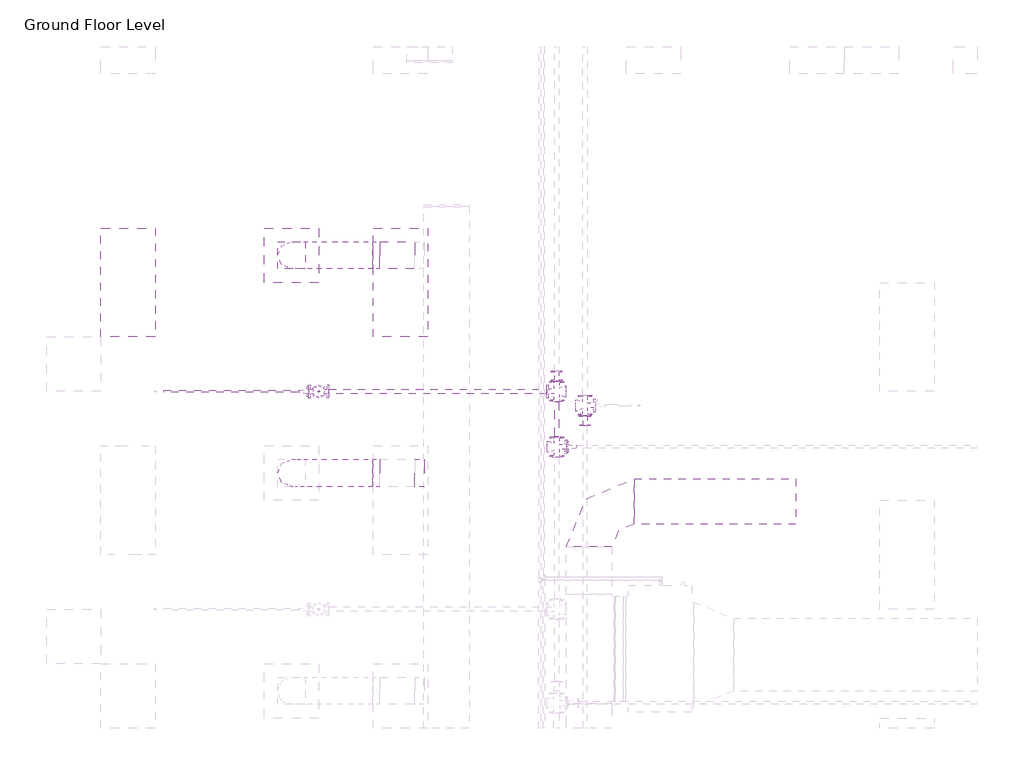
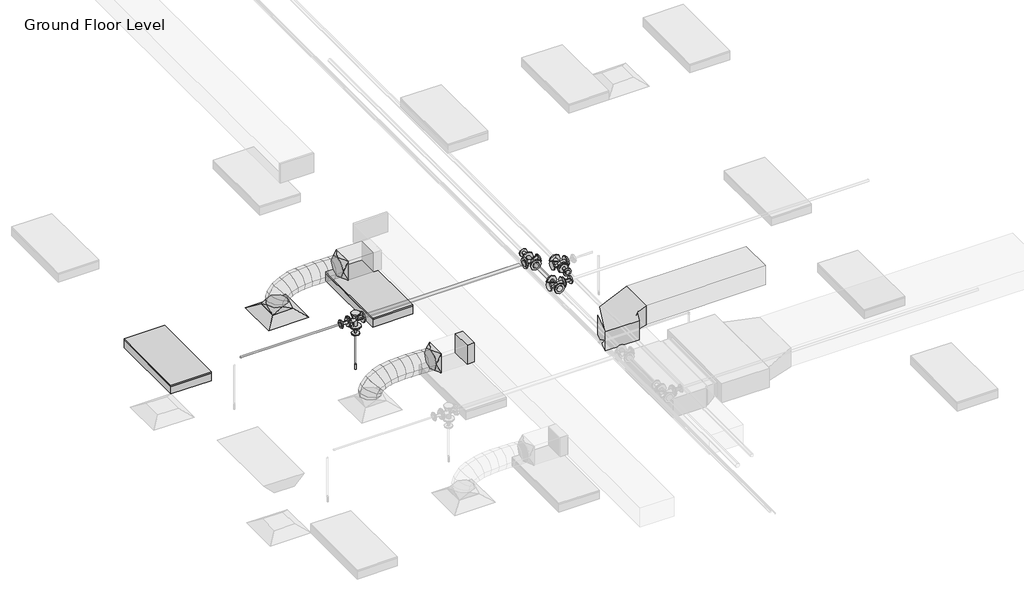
# One storey, part 26 of 74: 9 pipe fittings, 5 duct fittings, 4 duct segments, 4 pipe segments, 2 light fixtures, 1 air terminal, 1 fire suppression terminal.
"""IFC4 building model written with IfcOpenShell, lengths in millimetres."""

from ifc_helpers import new_model, si_unit, point, frame, frame_2d, origin, place, context, project, spatial, polyline, circle_curve, ellipse_curve, trimmed, segment, composite_curve, outline, extrude, transform, mapped, element, save
from ifc_brep_helpers import plane_surface, cylinder_surface, advanced_brep
from components import m_return_diffuser_600_x_600_face_300_x_300_connection_ff221211, m_rectangular_elbow_radius_1_w_abe20169, m_rectangular_takeoff_standard_cb0ccb98, m_rectangular_to_round_transition_angle_45_degree_641efff0, m_sprinkler_dry_pendent_hosted_15_mm_dry_pendent_9bda8e11, m_troffer_light_parabolic_rectangular1_0600x1200mm_4_lamp_86473d4a, m_reducer_flanged_cs_class_150_standard_564df86d, m_reducer_flanged_cs_class_150_standard_8338f9e4, m_reducer_flanged_cs_class_150_standard_dc68ad9d, m_tee_round_base_flanged_cs_class_150_standard_ab36f383

model = new_model("IFC4")

# Units and contexts
model_context = context("Model", 3, world=origin())
ifc_project = project(units=[si_unit("LENGTHUNIT", "METRE", prefix="MILLI")], contexts=[model_context])

# Site, building, storey
site = spatial("IfcSite", under=ifc_project)
building = spatial("IfcBuilding", under=site)
storey = spatial("IfcBuildingStorey", under=building, Name="Ground Floor Level", Elevation=900.0)

# Air terminal
placement = place(None, origin())
m_return_diffuser_600_x_600_face_300_x_300_connection_shape = m_return_diffuser_600_x_600_face_300_x_300_connection_ff221211(model_context)
element("IfcAirTerminal", 1, ObjectType="M_Supply Diffuser : 600 x 600 Face 300 x 300 Connection", at=placement, inside=storey, context=model_context, shape_type="MappedRepresentation", body=[
    mapped(m_return_diffuser_600_x_600_face_300_x_300_connection_shape, transform((2762.7672395, -17164.7846466, 3650.0), x_axis=(1.0, 0.0, 0.0), y_axis=(0.0, 1.0, 0.0), z_axis=(0.0, 0.0, 1.0))),
])

# Duct fittings
m_rectangular_elbow_radius_1_w_shape = m_rectangular_elbow_radius_1_w_abe20169(model_context)
element("IfcDuctFitting", 2, ObjectType="M_Rectangular Elbow - Radius : 1 W", at=placement, inside=storey, context=model_context, shape_type="MappedRepresentation", body=[
    mapped(m_rectangular_elbow_radius_1_w_shape, transform((6040.9897768, -19877.6206315, 4082.4543707), x_axis=(-1.0, 0.0, 0.0), y_axis=(0.0, -1.0, 0.0), z_axis=(0.0, 0.0, 1.0))),
])
m_rectangular_takeoff_standard_shape = m_rectangular_takeoff_standard_cb0ccb98(model_context)
element("IfcDuctFitting", 3, ObjectType="M_Rectangular Takeoff : Standard", at=placement, inside=storey, context=model_context, shape_type="MappedRepresentation", body=[
    mapped(m_rectangular_takeoff_standard_shape, transform((4219.1581832, -19564.7846466, 4057.1479019), x_axis=(-1.0, 0.0, 0.0), y_axis=(0.0, 1.0, 0.0), z_axis=(0.0, 0.0, -1.0))),
])
m_rectangular_to_round_transition_angle_45_degree_shape = m_rectangular_to_round_transition_angle_45_degree_641efff0(model_context)
element("IfcDuctFitting", 4, ObjectType="M_Rectangular to Round Transition - Angle : 45 Degree", at=placement, inside=storey, context=model_context, shape_type="MappedRepresentation", body=[
    mapped(m_rectangular_to_round_transition_angle_45_degree_shape, transform((2762.7672395, -17164.7846466, 3751.6), x_axis=(0.0, 0.0, 1.0), y_axis=(-1.0, 0.0, 0.0), z_axis=(0.0, -1.0, 0.0))),
])
element("IfcDuctFitting", 5, ObjectType="M_Rectangular to Round Transition - Angle : 45 Degree", at=placement, inside=storey, context=model_context, shape_type="MappedRepresentation", body=[
    mapped(m_rectangular_to_round_transition_angle_45_degree_shape, transform((3732.9593248, -17164.7846466, 4057.143846), x_axis=(-1.0, 0.0, 0.0), y_axis=(0.0, -1.0, 0.0), z_axis=(0.0, 0.0, 1.0))),
])
element("IfcDuctFitting", 6, ObjectType="M_Rectangular to Round Transition - Angle : 45 Degree", at=placement, inside=storey, context=model_context, shape_type="MappedRepresentation", body=[
    mapped(m_rectangular_to_round_transition_angle_45_degree_shape, transform((3732.9552689, -19564.7846466, 4057.1479019), x_axis=(-1.0, 0.0, 0.0), y_axis=(0.0, -1.0, 0.0), z_axis=(0.0, 0.0, 1.0))),
])

# Duct segments
element("IfcDuctSegment", 7, ObjectType="Flex - Round", at=placement, inside=storey, context=model_context, shape_type="AdvancedBrep", body=[
    advanced_brep(
    [(2912.7672395, -17164.7846466, 3826.6), (2762.7672395, -17314.7846466, 3826.6), (2612.7672395, -17164.7846466, 3826.6), (2762.7672395, -17014.7846466, 3826.6), (2912.7672395, -17164.7846466, 3832.8904054), (2762.7672395, -17314.7846466, 3856.84963), (2612.7672395, -17164.7846466, 3880.8088546), (2762.7672395, -17014.7846466, 3856.84963), (2914.0857611, -17164.7846466, 3836.9124951), (2779.5129985, -17314.7846466, 3907.9318018), (2644.940236, -17164.7846466, 3978.9511085), (2779.5129985, -17014.7846466, 3907.9318018), (2928.1333628, -17164.7846466, 3855.2232955), (2826.2863476, -17314.7846466, 3968.9000352), (2724.4393324, -17164.7846466, 4082.5767748), (2826.2863476, -17014.7846466, 3968.9000352), (2960.0749195, -17164.7846466, 3874.5762626), (2897.8913945, -17314.7846466, 4012.2845867), (2835.7078695, -17164.7846466, 4149.9929109), (2897.8913945, -17014.7846466, 4012.2845867), (3023.3474104, -17164.7846466, 3894.3960649), (2989.1322471, -17314.7846466, 4040.8653433), (2954.9170839, -17164.7846466, 4187.3346218), (2989.1322471, -17014.7846466, 4040.8653433), (3111.2188579, -17164.7846466, 3908.1627538), (3094.8130134, -17314.7846466, 4057.4221917), (3078.407169, -17164.7846466, 4206.6816296), (3094.8130134, -17014.7846466, 4057.4221917), (3215.0397402, -17164.7846466, 3914.7690234), (3209.7378012, -17314.7846466, 4064.7350186), (3204.4358622, -17164.7846466, 4214.7010137), (3209.7378012, -17014.7846466, 4064.7350186), (3327.4409955, -17164.7846466, 3915.5708367), (3328.7107184, -17314.7846466, 4065.5837107), (3329.9804412, -17164.7846466, 4215.5965847), (3328.7107184, -17014.7846466, 4065.5837107), (3442.2167216, -17164.7846466, 3912.8086677), (3446.5358728, -17314.7846466, 4062.7481548), (3450.855024, -17164.7846466, 4212.6876419), (3446.5358728, -17014.7846466, 4062.7481548), (3554.063392, -17164.7846466, 3909.0565), (3558.0173723, -17314.7846466, 4059.0082376), (3561.9713526, -17164.7846466, 4208.9599753), (3558.0173723, -17014.7846466, 4059.0082376), (3657.9593248, -17164.7846466, 3907.143846), (3657.9593248, -17014.7846466, 4057.143846), (3657.9593248, -17164.7846466, 4207.143846), (3657.9593248, -17314.7846466, 4057.143846), (3653.7223326, -17164.7846466, 3907.143846), (3655.1615998, -17314.7846466, 4057.143846), (3656.600867, -17164.7846466, 4207.143846), (3655.1615998, -17014.7846466, 4057.143846)],
    [
        (0, 1, circle_curve(frame((2762.7672395, -17164.7846466, 3826.6), z_axis=(0.0, 0.0, -1.0), x_axis=(1.0, 0.0, 0.0)), 150.0)),
        (1, 2, circle_curve(frame((2762.7672395, -17164.7846466, 3826.6), z_axis=(0.0, 0.0, -1.0), x_axis=(1.0, 0.0, 0.0)), 150.0)),
        (2, 3, circle_curve(frame((2762.7672395, -17164.7846466, 3826.6), z_axis=(0.0, 0.0, -1.0), x_axis=(1.0, 0.0, 0.0)), 150.0)),
        (3, 0, circle_curve(frame((2762.7672395, -17164.7846466, 3826.6), z_axis=(0.0, 0.0, -1.0), x_axis=(1.0, 0.0, 0.0)), 150.0)),
        (0, 4),
        (4, 5, ellipse_curve(frame((2762.7672395, -17164.7846466, 3856.84963), z_axis=(-0.1577287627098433, 0.0, -0.9874824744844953), x_axis=(0.9874824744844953, 0.0, -0.15772876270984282)), 151.90143, 150.0)),
        (5, 1),
        (5, 6, ellipse_curve(frame((2762.7672395, -17164.7846466, 3856.84963), z_axis=(-0.1577287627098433, 0.0, -0.9874824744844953), x_axis=(0.9874824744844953, 0.0, -0.15772876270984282)), 151.90143, 150.0)),
        (6, 2),
        (6, 7, ellipse_curve(frame((2762.7672395, -17164.7846466, 3856.84963), z_axis=(-0.1577287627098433, 0.0, -0.9874824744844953), x_axis=(0.9874824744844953, 0.0, -0.15772876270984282)), 151.90143, 150.0)),
        (7, 3),
        (7, 4, ellipse_curve(frame((2762.7672395, -17164.7846466, 3856.84963), z_axis=(-0.1577287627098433, 0.0, -0.9874824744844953), x_axis=(0.9874824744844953, 0.0, -0.15772876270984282)), 151.90143, 150.0)),
        (4, 8),
        (8, 9, ellipse_curve(frame((2779.5129985, -17164.7846466, 3907.9318018), z_axis=(-0.4667318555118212, 0.0, -0.8843988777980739), x_axis=(0.8843988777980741, 0.0, -0.4667318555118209)), 152.162973, 150.0)),
        (9, 5),
        (9, 10, ellipse_curve(frame((2779.5129985, -17164.7846466, 3907.9318018), z_axis=(-0.4667318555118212, 0.0, -0.8843988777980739), x_axis=(0.8843988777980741, 0.0, -0.4667318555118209)), 152.162973, 150.0)),
        (10, 6),
        (10, 11, ellipse_curve(frame((2779.5129985, -17164.7846466, 3907.9318018), z_axis=(-0.4667318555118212, 0.0, -0.8843988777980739), x_axis=(0.8843988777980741, 0.0, -0.4667318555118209)), 152.162973, 150.0)),
        (11, 7),
        (11, 8, ellipse_curve(frame((2779.5129985, -17164.7846466, 3907.9318018), z_axis=(-0.4667318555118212, 0.0, -0.8843988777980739), x_axis=(0.8843988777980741, 0.0, -0.4667318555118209)), 152.162973, 150.0)),
        (8, 12),
        (12, 13, ellipse_curve(frame((2826.2863476, -17164.7846466, 3968.9000352), z_axis=(-0.7447975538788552, 0.0, -0.6672904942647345), x_axis=(0.667290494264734, 0.0, -0.7447975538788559)), 152.6277027, 150.0)),
        (13, 9),
        (13, 14, ellipse_curve(frame((2826.2863476, -17164.7846466, 3968.9000352), z_axis=(-0.7447975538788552, 0.0, -0.6672904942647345), x_axis=(0.667290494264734, 0.0, -0.7447975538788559)), 152.6277027, 150.0)),
        (14, 10),
        (14, 15, ellipse_curve(frame((2826.2863476, -17164.7846466, 3968.9000352), z_axis=(-0.7447975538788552, 0.0, -0.6672904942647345), x_axis=(0.667290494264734, 0.0, -0.7447975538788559)), 152.6277027, 150.0)),
        (15, 11),
        (15, 12, ellipse_curve(frame((2826.2863476, -17164.7846466, 3968.9000352), z_axis=(-0.7447975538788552, 0.0, -0.6672904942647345), x_axis=(0.667290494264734, 0.0, -0.7447975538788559)), 152.6277027, 150.0)),
        (12, 16),
        (16, 17, ellipse_curve(frame((2897.8913945, -17164.7846466, 4012.2845867), z_axis=(-0.9113887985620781, 0.0, -0.41154642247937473), x_axis=(0.41154642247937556, 0.0, -0.9113887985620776)), 151.0972314, 150.0)),
        (17, 13),
        (17, 18, ellipse_curve(frame((2897.8913945, -17164.7846466, 4012.2845867), z_axis=(-0.9113887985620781, 0.0, -0.41154642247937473), x_axis=(0.41154642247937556, 0.0, -0.9113887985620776)), 151.0972314, 150.0)),
        (18, 14),
        (18, 19, ellipse_curve(frame((2897.8913945, -17164.7846466, 4012.2845867), z_axis=(-0.9113887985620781, 0.0, -0.41154642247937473), x_axis=(0.41154642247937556, 0.0, -0.9113887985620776)), 151.0972314, 150.0)),
        (19, 15),
        (19, 16, ellipse_curve(frame((2897.8913945, -17164.7846466, 4012.2845867), z_axis=(-0.9113887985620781, 0.0, -0.41154642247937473), x_axis=(0.41154642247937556, 0.0, -0.9113887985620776)), 151.0972314, 150.0)),
        (16, 20),
        (20, 21, ellipse_curve(frame((2989.1322471, -17164.7846466, 4040.8653433), z_axis=(-0.9737838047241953, 0.0, -0.2274754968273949), x_axis=(0.22747549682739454, 0.0, -0.9737838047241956)), 150.4125225, 150.0)),
        (21, 17),
        (21, 22, ellipse_curve(frame((2989.1322471, -17164.7846466, 4040.8653433), z_axis=(-0.9737838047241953, 0.0, -0.2274754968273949), x_axis=(0.22747549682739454, 0.0, -0.9737838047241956)), 150.4125225, 150.0)),
        (22, 18),
        (22, 23, ellipse_curve(frame((2989.1322471, -17164.7846466, 4040.8653433), z_axis=(-0.9737838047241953, 0.0, -0.2274754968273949), x_axis=(0.22747549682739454, 0.0, -0.9737838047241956)), 150.4125225, 150.0)),
        (23, 19),
        (23, 20, ellipse_curve(frame((2989.1322471, -17164.7846466, 4040.8653433), z_axis=(-0.9737838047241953, 0.0, -0.2274754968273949), x_axis=(0.22747549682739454, 0.0, -0.9737838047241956)), 150.4125225, 150.0)),
        (20, 24),
        (24, 25, ellipse_curve(frame((3094.8130134, -17164.7846466, 4057.4221917), z_axis=(-0.9940135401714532, 0.0, -0.10925695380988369), x_axis=(0.1092569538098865, 0.0, -0.9940135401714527)), 150.1583549, 150.0)),
        (25, 21),
        (25, 26, ellipse_curve(frame((3094.8130134, -17164.7846466, 4057.4221917), z_axis=(-0.9940135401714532, 0.0, -0.10925695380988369), x_axis=(0.1092569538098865, 0.0, -0.9940135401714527)), 150.1583549, 150.0)),
        (26, 22),
        (26, 27, ellipse_curve(frame((3094.8130134, -17164.7846466, 4057.4221917), z_axis=(-0.9940135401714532, 0.0, -0.10925695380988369), x_axis=(0.1092569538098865, 0.0, -0.9940135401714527)), 150.1583549, 150.0)),
        (27, 23),
        (27, 24, ellipse_curve(frame((3094.8130134, -17164.7846466, 4057.4221917), z_axis=(-0.9940135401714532, 0.0, -0.10925695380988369), x_axis=(0.1092569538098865, 0.0, -0.9940135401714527)), 150.1583549, 150.0)),
        (24, 28),
        (28, 29, ellipse_curve(frame((3209.7378012, -17164.7846466, 4064.7350186), z_axis=(-0.999375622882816, 0.0, -0.035332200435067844), x_axis=(0.035332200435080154, 0.0, -0.9993756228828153)), 150.059689, 150.0)),
        (29, 25),
        (29, 30, ellipse_curve(frame((3209.7378012, -17164.7846466, 4064.7350186), z_axis=(-0.999375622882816, 0.0, -0.035332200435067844), x_axis=(0.035332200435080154, 0.0, -0.9993756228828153)), 150.059689, 150.0)),
        (30, 26),
        (30, 31, ellipse_curve(frame((3209.7378012, -17164.7846466, 4064.7350186), z_axis=(-0.999375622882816, 0.0, -0.035332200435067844), x_axis=(0.035332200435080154, 0.0, -0.9993756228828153)), 150.059689, 150.0)),
        (31, 27),
        (31, 28, ellipse_curve(frame((3209.7378012, -17164.7846466, 4064.7350186), z_axis=(-0.999375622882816, 0.0, -0.035332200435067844), x_axis=(0.035332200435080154, 0.0, -0.9993756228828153)), 150.059689, 150.0)),
        (28, 32),
        (32, 33, ellipse_curve(frame((3328.7107184, -17164.7846466, 4065.5837107), z_axis=(-0.9999641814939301, 0.0, 0.008463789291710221), x_axis=(-0.00846378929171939, 0.0, -0.9999641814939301)), 150.0182474, 150.0)),
        (33, 29),
        (33, 34, ellipse_curve(frame((3328.7107184, -17164.7846466, 4065.5837107), z_axis=(-0.9999641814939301, 0.0, 0.008463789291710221), x_axis=(-0.00846378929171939, 0.0, -0.9999641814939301)), 150.0182474, 150.0)),
        (34, 30),
        (34, 35, ellipse_curve(frame((3328.7107184, -17164.7846466, 4065.5837107), z_axis=(-0.9999641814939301, 0.0, 0.008463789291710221), x_axis=(-0.00846378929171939, 0.0, -0.9999641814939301)), 150.0182474, 150.0)),
        (35, 31),
        (35, 32, ellipse_curve(frame((3328.7107184, -17164.7846466, 4065.5837107), z_axis=(-0.9999641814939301, 0.0, 0.008463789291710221), x_axis=(-0.00846378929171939, 0.0, -0.9999641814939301)), 150.0182474, 150.0)),
        (32, 36),
        (36, 37, ellipse_curve(frame((3446.5358728, -17164.7846466, 4062.7481548), z_axis=(-0.9995853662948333, 0.0, 0.02879401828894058), x_axis=(-0.028794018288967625, -3.989114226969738e-12, -0.9995853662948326)), 150.0016828, 150.0)),
        (37, 33),
        (37, 38, ellipse_curve(frame((3446.5358728, -17164.7846466, 4062.7481548), z_axis=(-0.9995853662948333, 0.0, 0.02879401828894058), x_axis=(-0.028794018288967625, -3.989114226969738e-12, -0.9995853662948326)), 150.0016828, 150.0)),
        (38, 34),
        (38, 39, ellipse_curve(frame((3446.5358728, -17164.7846466, 4062.7481548), z_axis=(-0.9995853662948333, 0.0, 0.02879401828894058), x_axis=(-0.028794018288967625, -3.989114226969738e-12, -0.9995853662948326)), 150.0016828, 150.0)),
        (39, 35),
        (39, 36, ellipse_curve(frame((3446.5358728, -17164.7846466, 4062.7481548), z_axis=(-0.9995853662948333, 0.0, 0.02879401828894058), x_axis=(-0.028794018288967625, -3.989114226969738e-12, -0.9995853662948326)), 150.0016828, 150.0)),
        (36, 40),
        (40, 41, ellipse_curve(frame((3558.0173723, -17164.7846466, 4059.0082376), z_axis=(-0.9996525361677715, 0.0, 0.026359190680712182), x_axis=(0.026359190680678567, 1.3534899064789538e-12, 0.9996525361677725)), 150.0038586, 150.0)),
        (41, 37),
        (41, 42, ellipse_curve(frame((3558.0173723, -17164.7846466, 4059.0082376), z_axis=(-0.9996525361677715, 0.0, 0.026359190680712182), x_axis=(0.026359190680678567, 1.3534899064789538e-12, 0.9996525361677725)), 150.0038586, 150.0)),
        (42, 38),
        (42, 43, ellipse_curve(frame((3558.0173723, -17164.7846466, 4059.0082376), z_axis=(-0.9996525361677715, 0.0, 0.026359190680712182), x_axis=(0.026359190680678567, 1.3534899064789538e-12, 0.9996525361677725)), 150.0038586, 150.0)),
        (43, 39),
        (43, 40, ellipse_curve(frame((3558.0173723, -17164.7846466, 4059.0082376), z_axis=(-0.9996525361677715, 0.0, 0.026359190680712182), x_axis=(0.026359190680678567, 1.3534899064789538e-12, 0.9996525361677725)), 150.0038586, 150.0)),
        (44, 45, circle_curve(frame((3657.9593248, -17164.7846466, 4057.143846), z_axis=(1.0, 0.0, 0.0), x_axis=(0.0, 0.0, -1.0)), 150.0)),
        (45, 46, circle_curve(frame((3657.9593248, -17164.7846466, 4057.143846), z_axis=(1.0, 0.0, 0.0), x_axis=(0.0, 0.0, -1.0)), 150.0)),
        (46, 47, circle_curve(frame((3657.9593248, -17164.7846466, 4057.143846), z_axis=(1.0, 0.0, 0.0), x_axis=(0.0, 0.0, -1.0)), 150.0)),
        (47, 44, circle_curve(frame((3657.9593248, -17164.7846466, 4057.143846), z_axis=(1.0, 0.0, 0.0), x_axis=(0.0, 0.0, -1.0)), 150.0)),
        (40, 48),
        (48, 49, ellipse_curve(frame((3655.1615998, -17164.7846466, 4057.143846), z_axis=(-0.999953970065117, 0.0, 0.009594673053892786), x_axis=(0.00959467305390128, 0.0, 0.999953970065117)), 150.0069048, 150.0)),
        (49, 41),
        (49, 50, ellipse_curve(frame((3655.1615998, -17164.7846466, 4057.143846), z_axis=(-0.999953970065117, 0.0, 0.009594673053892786), x_axis=(0.00959467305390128, 0.0, 0.999953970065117)), 150.0069048, 150.0)),
        (50, 42),
        (50, 51, ellipse_curve(frame((3655.1615998, -17164.7846466, 4057.143846), z_axis=(-0.999953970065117, 0.0, 0.009594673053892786), x_axis=(0.00959467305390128, 0.0, 0.999953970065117)), 150.0069048, 150.0)),
        (51, 43),
        (51, 48, ellipse_curve(frame((3655.1615998, -17164.7846466, 4057.143846), z_axis=(-0.999953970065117, 0.0, 0.009594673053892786), x_axis=(0.00959467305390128, 0.0, 0.999953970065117)), 150.0069048, 150.0)),
        (48, 44),
        (47, 49),
        (46, 50),
        (45, 51),
    ],
    [
        plane_surface(frame((2762.7672395, -17314.7846466, 3826.6), z_axis=(0.0, 0.0, -1.0), x_axis=(1.0, 0.0, 0.0))),
        cylinder_surface(frame((2762.7672395, -17164.7846466, 3826.6), z_axis=(0.0, 0.0, -1.0), x_axis=(1.0, 0.0, 0.0)), 150.0),
        cylinder_surface(frame((2762.7672395, -17164.7846466, 3856.84963), z_axis=(-0.3115087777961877, 0.0, -0.9502432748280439), x_axis=(0.9502432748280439, 0.0, -0.3115087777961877)), 150.0),
        cylinder_surface(frame((2779.5129985, -17164.7846466, 3907.9318018), z_axis=(-0.6086858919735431, 0.0, -0.7934112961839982), x_axis=(0.7934112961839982, 0.0, -0.6086858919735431)), 150.0),
        cylinder_surface(frame((2826.2863476, -17164.7846466, 3968.9000352), z_axis=(-0.8552637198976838, 0.0, -0.5181929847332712), x_axis=(0.5181929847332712, 0.0, -0.8552637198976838)), 150.0),
        cylinder_surface(frame((2897.8913945, -17164.7846466, 4012.2845867), z_axis=(-0.9542773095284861, 0.0, -0.2989227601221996), x_axis=(0.2989227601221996, 0.0, -0.9542773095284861)), 150.0),
        cylinder_surface(frame((2989.1322471, -17164.7846466, 4040.8653433), z_axis=(-0.9879488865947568, 0.0, -0.15478048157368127), x_axis=(0.15478048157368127, 0.0, -0.9879488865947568)), 150.0),
        cylinder_surface(frame((3094.8130134, -17164.7846466, 4057.4221917), z_axis=(-0.9979816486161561, 0.0, -0.06350298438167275), x_axis=(0.06350298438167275, 0.0, -0.9979816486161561)), 150.0),
        cylinder_surface(frame((3209.7378012, -17164.7846466, 4064.7350186), z_axis=(-0.9999745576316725, 0.0, -0.007133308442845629), x_axis=(0.007133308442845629, 0.0, -0.9999745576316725)), 150.0),
        cylinder_surface(frame((3328.7107184, -17164.7846466, 4065.5837107), z_axis=(-0.9997105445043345, 0.0, 0.024058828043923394), x_axis=(-0.024058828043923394, 0.0, -0.9997105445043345)), 150.0),
        cylinder_surface(frame((3446.5358728, -17164.7846466, 4062.7481548), z_axis=(-0.9994377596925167, 0.0, 0.03352856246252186), x_axis=(-0.03352856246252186, 0.0, -0.9994377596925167)), 150.0),
        plane_surface(frame((3657.9593248, -17164.7846466, 3907.143846), z_axis=(1.0, 0.0, 0.0), x_axis=(0.0, 1.0, 0.0))),
        cylinder_surface(frame((3558.0173723, -17164.7846466, 4059.0082376), z_axis=(-0.9998158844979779, 0.0, 0.019188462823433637), x_axis=(-0.019188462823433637, 0.0, -0.9998158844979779)), 150.0),
        cylinder_surface(frame((3655.1615998, -17164.7846466, 4057.143846), z_axis=(-1.0, 0.0, 0.0), x_axis=(0.0, 0.0, -1.0)), 150.0),
    ],
    [
        (0, [[1, 2, 3, 4]]),
        (1, [[-1, 5, 6, 7]]),
        (1, [[-2, -7, 8, 9]]),
        (1, [[-3, -9, 10, 11]]),
        (1, [[-4, -11, 12, -5]]),
        (2, [[-6, 13, 14, 15]]),
        (2, [[-8, -15, 16, 17]]),
        (2, [[-10, -17, 18, 19]]),
        (2, [[-12, -19, 20, -13]]),
        (3, [[-14, 21, 22, 23]]),
        (3, [[-16, -23, 24, 25]]),
        (3, [[-18, -25, 26, 27]]),
        (3, [[-20, -27, 28, -21]]),
        (4, [[-22, 29, 30, 31]]),
        (4, [[-24, -31, 32, 33]]),
        (4, [[-26, -33, 34, 35]]),
        (4, [[-28, -35, 36, -29]]),
        (5, [[-30, 37, 38, 39]]),
        (5, [[-32, -39, 40, 41]]),
        (5, [[-34, -41, 42, 43]]),
        (5, [[-36, -43, 44, -37]]),
        (6, [[-38, 45, 46, 47]]),
        (6, [[-40, -47, 48, 49]]),
        (6, [[-42, -49, 50, 51]]),
        (6, [[-44, -51, 52, -45]]),
        (7, [[-46, 53, 54, 55]]),
        (7, [[-48, -55, 56, 57]]),
        (7, [[-50, -57, 58, 59]]),
        (7, [[-52, -59, 60, -53]]),
        (8, [[-54, 61, 62, 63]]),
        (8, [[-56, -63, 64, 65]]),
        (8, [[-58, -65, 66, 67]]),
        (8, [[-60, -67, 68, -61]]),
        (9, [[-62, 69, 70, 71]]),
        (9, [[-64, -71, 72, 73]]),
        (9, [[-66, -73, 74, 75]]),
        (9, [[-68, -75, 76, -69]]),
        (10, [[-70, 77, 78, 79]]),
        (10, [[-72, -79, 80, 81]]),
        (10, [[-74, -81, 82, 83]]),
        (10, [[-76, -83, 84, -77]]),
        (11, [[85, 86, 87, 88]]),
        (12, [[-78, 89, 90, 91]]),
        (12, [[-80, -91, 92, 93]]),
        (12, [[-82, -93, 94, 95]]),
        (12, [[-84, -95, 96, -89]]),
        (13, [[-90, 97, -88, 98]]),
        (13, [[-92, -98, -87, 99]]),
        (13, [[-94, -99, -86, 100]]),
        (13, [[-96, -100, -85, -97]]),
    ],
),
])
element("IfcDuctSegment", 8, ObjectType="Flex - Round", at=placement, inside=storey, context=model_context, shape_type="AdvancedBrep", body=[
    advanced_brep(
    [(2912.7672395, -19564.7846466, 3826.6), (2762.7672395, -19714.7846466, 3826.6), (2612.7672395, -19564.7846466, 3826.6), (2762.7672395, -19414.7846466, 3826.6), (2912.7672395, -19564.7846466, 3832.8904098), (2762.7672395, -19714.7846466, 3856.8495224), (2612.7672395, -19564.7846466, 3880.8086351), (2762.7672395, -19414.7846466, 3856.8495224), (2914.0858346, -19564.7846466, 3836.9127437), (2779.5129112, -19714.7846466, 3907.9316792), (2644.9399878, -19564.7846466, 3978.9506146), (2779.5129112, -19414.7846466, 3907.9316792), (2928.1335887, -19564.7846466, 3855.2238886), (2826.2860191, -19714.7846466, 3968.9000837), (2724.4384494, -19564.7846466, 4082.5762788), (2826.2860191, -19414.7846466, 3968.9000837), (2960.0751433, -19564.7846466, 3874.5771306), (2897.8907021, -19714.7846466, 4012.2850341), (2835.706261, -19564.7846466, 4149.9929377), (2897.8907021, -19414.7846466, 4012.2850341), (3023.3472749, -19564.7846466, 3894.3973079), (2989.1310994, -19714.7846466, 4040.8663511), (2954.9149239, -19564.7846466, 4187.3353943), (2989.1310994, -19414.7846466, 4040.8663511), (3111.2181676, -19564.7846466, 3908.1645223), (3094.81135, -19714.7846466, 4057.4238552), (3078.4045323, -19564.7846466, 4206.6831881), (3094.81135, -19414.7846466, 4057.4238552), (3215.0384102, -19564.7846466, 3914.7714012), (3209.7355929, -19714.7846466, 4064.7373669), (3204.4327755, -19564.7846466, 4214.7033325), (3209.7355929, -19414.7846466, 4064.7373669), (3327.4389939, -19564.7846466, 3915.5738253), (3328.7079672, -19714.7846466, 4065.5867068), (3329.9769404, -19564.7846466, 4215.5995883), (3328.7079672, -19414.7846466, 4065.5867068), (3442.2140413, -19564.7846466, 3912.8121913), (3446.5326119, -19714.7846466, 4062.7516956), (3450.8511825, -19564.7846466, 4212.6911999), (3446.5326119, -19414.7846466, 4062.7516956), (3554.0600336, -19564.7846466, 3909.0604079), (3558.0136661, -19714.7846466, 4059.0121538), (3561.9672986, -19564.7846466, 4208.9638996), (3558.0136661, -19414.7846466, 4059.0121538), (3657.9552689, -19564.7846466, 3907.1479019), (3657.9552689, -19414.7846466, 4057.1479019), (3657.9552689, -19564.7846466, 4207.1479019), (3657.9552689, -19714.7846466, 4057.1479019), (3653.7185823, -19564.7846466, 3907.1479019), (3655.1577438, -19714.7846466, 4057.1479019), (3656.5969053, -19564.7846466, 4207.1479019), (3655.1577438, -19414.7846466, 4057.1479019)],
    [
        (0, 1, circle_curve(frame((2762.7672395, -19564.7846466, 3826.6), z_axis=(0.0, 0.0, -1.0), x_axis=(1.0, 0.0, 0.0)), 150.0)),
        (1, 2, circle_curve(frame((2762.7672395, -19564.7846466, 3826.6), z_axis=(0.0, 0.0, -1.0), x_axis=(1.0, 0.0, 0.0)), 150.0)),
        (2, 3, circle_curve(frame((2762.7672395, -19564.7846466, 3826.6), z_axis=(0.0, 0.0, -1.0), x_axis=(1.0, 0.0, 0.0)), 150.0)),
        (3, 0, circle_curve(frame((2762.7672395, -19564.7846466, 3826.6), z_axis=(0.0, 0.0, -1.0), x_axis=(1.0, 0.0, 0.0)), 150.0)),
        (0, 4),
        (4, 5, ellipse_curve(frame((2762.7672395, -19564.7846466, 3856.8495224), z_axis=(-0.157728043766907, 0.0, -0.9874825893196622), x_axis=(0.9874825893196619, 0.0, -0.15772804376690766)), 151.9014124, 150.0)),
        (5, 1),
        (5, 6, ellipse_curve(frame((2762.7672395, -19564.7846466, 3856.8495224), z_axis=(-0.157728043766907, 0.0, -0.9874825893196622), x_axis=(0.9874825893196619, 0.0, -0.15772804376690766)), 151.9014124, 150.0)),
        (6, 2),
        (6, 7, ellipse_curve(frame((2762.7672395, -19564.7846466, 3856.8495224), z_axis=(-0.157728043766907, 0.0, -0.9874825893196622), x_axis=(0.9874825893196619, 0.0, -0.15772804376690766)), 151.9014124, 150.0)),
        (7, 3),
        (7, 4, ellipse_curve(frame((2762.7672395, -19564.7846466, 3856.8495224), z_axis=(-0.157728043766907, 0.0, -0.9874825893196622), x_axis=(0.9874825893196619, 0.0, -0.15772804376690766)), 151.9014124, 150.0)),
        (4, 8),
        (8, 9, ellipse_curve(frame((2779.5129112, -19564.7846466, 3907.9316792), z_axis=(-0.4667295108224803, 0.0, -0.8844001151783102), x_axis=(0.8844001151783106, 0.0, -0.46672951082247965)), 152.162942, 150.0)),
        (9, 5),
        (9, 10, ellipse_curve(frame((2779.5129112, -19564.7846466, 3907.9316792), z_axis=(-0.4667295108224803, 0.0, -0.8844001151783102), x_axis=(0.8844001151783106, 0.0, -0.46672951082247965)), 152.162942, 150.0)),
        (10, 6),
        (10, 11, ellipse_curve(frame((2779.5129112, -19564.7846466, 3907.9316792), z_axis=(-0.4667295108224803, 0.0, -0.8844001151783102), x_axis=(0.8844001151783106, 0.0, -0.46672951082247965)), 152.162942, 150.0)),
        (11, 7),
        (11, 8, ellipse_curve(frame((2779.5129112, -19564.7846466, 3907.9316792), z_axis=(-0.4667295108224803, 0.0, -0.8844001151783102), x_axis=(0.8844001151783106, 0.0, -0.46672951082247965)), 152.162942, 150.0)),
        (8, 12),
        (12, 13, ellipse_curve(frame((2826.2860191, -19564.7846466, 3968.9000837), z_axis=(-0.7447941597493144, 0.0, -0.667294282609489), x_axis=(0.6672942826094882, 0.0, -0.7447941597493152)), 152.6276671, 150.0)),
        (13, 9),
        (13, 14, ellipse_curve(frame((2826.2860191, -19564.7846466, 3968.9000837), z_axis=(-0.7447941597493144, 0.0, -0.667294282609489), x_axis=(0.6672942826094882, 0.0, -0.7447941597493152)), 152.6276671, 150.0)),
        (14, 10),
        (14, 15, ellipse_curve(frame((2826.2860191, -19564.7846466, 3968.9000837), z_axis=(-0.7447941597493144, 0.0, -0.667294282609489), x_axis=(0.6672942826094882, 0.0, -0.7447941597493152)), 152.6276671, 150.0)),
        (15, 11),
        (15, 12, ellipse_curve(frame((2826.2860191, -19564.7846466, 3968.9000837), z_axis=(-0.7447941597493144, 0.0, -0.667294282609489), x_axis=(0.6672942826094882, 0.0, -0.7447941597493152)), 152.6276671, 150.0)),
        (12, 16),
        (16, 17, ellipse_curve(frame((2897.8907021, -19564.7846466, 4012.2850341), z_axis=(-0.9113860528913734, 0.0, -0.4115525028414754), x_axis=(0.4115525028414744, 0.0, -0.911386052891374)), 151.097225, 150.0)),
        (17, 13),
        (17, 18, ellipse_curve(frame((2897.8907021, -19564.7846466, 4012.2850341), z_axis=(-0.9113860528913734, 0.0, -0.4115525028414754), x_axis=(0.4115525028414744, 0.0, -0.911386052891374)), 151.097225, 150.0)),
        (18, 14),
        (18, 19, ellipse_curve(frame((2897.8907021, -19564.7846466, 4012.2850341), z_axis=(-0.9113860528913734, 0.0, -0.4115525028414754), x_axis=(0.4115525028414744, 0.0, -0.911386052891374)), 151.097225, 150.0)),
        (19, 15),
        (19, 16, ellipse_curve(frame((2897.8907021, -19564.7846466, 4012.2850341), z_axis=(-0.9113860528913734, 0.0, -0.4115525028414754), x_axis=(0.4115525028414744, 0.0, -0.911386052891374)), 151.097225, 150.0)),
        (16, 20),
        (20, 21, ellipse_curve(frame((2989.1310994, -19564.7846466, 4040.8663511), z_axis=(-0.9737822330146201, 0.0, -0.2274822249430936), x_axis=(0.22748222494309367, 0.0, -0.9737822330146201)), 150.4125237, 150.0)),
        (21, 17),
        (21, 22, ellipse_curve(frame((2989.1310994, -19564.7846466, 4040.8663511), z_axis=(-0.9737822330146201, 0.0, -0.2274822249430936), x_axis=(0.22748222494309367, 0.0, -0.9737822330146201)), 150.4125237, 150.0)),
        (22, 18),
        (22, 23, ellipse_curve(frame((2989.1310994, -19564.7846466, 4040.8663511), z_axis=(-0.9737822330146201, 0.0, -0.2274822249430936), x_axis=(0.22748222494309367, 0.0, -0.9737822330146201)), 150.4125237, 150.0)),
        (23, 19),
        (23, 20, ellipse_curve(frame((2989.1310994, -19564.7846466, 4040.8663511), z_axis=(-0.9737822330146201, 0.0, -0.2274822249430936), x_axis=(0.22748222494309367, 0.0, -0.9737822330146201)), 150.4125237, 150.0)),
        (20, 24),
        (24, 25, ellipse_curve(frame((3094.81135, -19564.7846466, 4057.4238552), z_axis=(-0.9940128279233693, 0.0, -0.10926343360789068), x_axis=(0.10926343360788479, 0.0, -0.9940128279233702)), 150.1583568, 150.0)),
        (25, 21),
        (25, 26, ellipse_curve(frame((3094.81135, -19564.7846466, 4057.4238552), z_axis=(-0.9940128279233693, 0.0, -0.10926343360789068), x_axis=(0.10926343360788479, 0.0, -0.9940128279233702)), 150.1583568, 150.0)),
        (26, 22),
        (26, 27, ellipse_curve(frame((3094.81135, -19564.7846466, 4057.4238552), z_axis=(-0.9940128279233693, 0.0, -0.10926343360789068), x_axis=(0.10926343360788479, 0.0, -0.9940128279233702)), 150.1583568, 150.0)),
        (27, 23),
        (27, 24, ellipse_curve(frame((3094.81135, -19564.7846466, 4057.4238552), z_axis=(-0.9940128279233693, 0.0, -0.10926343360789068), x_axis=(0.10926343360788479, 0.0, -0.9940128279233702)), 150.1583568, 150.0)),
        (24, 28),
        (28, 29, ellipse_curve(frame((3209.7355929, -19564.7846466, 4064.7373669), z_axis=(-0.9993754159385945, 0.0, -0.03533805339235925), x_axis=(0.03533805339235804, 0.0, -0.9993754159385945)), 150.0596906, 150.0)),
        (29, 25),
        (29, 30, ellipse_curve(frame((3209.7355929, -19564.7846466, 4064.7373669), z_axis=(-0.9993754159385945, 0.0, -0.03533805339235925), x_axis=(0.03533805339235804, 0.0, -0.9993754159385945)), 150.0596906, 150.0)),
        (30, 26),
        (30, 31, ellipse_curve(frame((3209.7355929, -19564.7846466, 4064.7373669), z_axis=(-0.9993754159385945, 0.0, -0.03533805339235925), x_axis=(0.03533805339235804, 0.0, -0.9993754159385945)), 150.0596906, 150.0)),
        (31, 27),
        (31, 28, ellipse_curve(frame((3209.7355929, -19564.7846466, 4064.7373669), z_axis=(-0.9993754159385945, 0.0, -0.03533805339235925), x_axis=(0.03533805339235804, 0.0, -0.9993754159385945)), 150.0596906, 150.0)),
        (28, 32),
        (32, 33, ellipse_curve(frame((3328.7079672, -19564.7846466, 4065.5867068), z_axis=(-0.9999642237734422, 0.0, 0.008458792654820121), x_axis=(-0.008458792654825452, 0.0, -0.9999642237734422)), 150.0182486, 150.0)),
        (33, 29),
        (33, 34, ellipse_curve(frame((3328.7079672, -19564.7846466, 4065.5867068), z_axis=(-0.9999642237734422, 0.0, 0.008458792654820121), x_axis=(-0.008458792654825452, 0.0, -0.9999642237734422)), 150.0182486, 150.0)),
        (34, 30),
        (34, 35, ellipse_curve(frame((3328.7079672, -19564.7846466, 4065.5867068), z_axis=(-0.9999642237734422, 0.0, 0.008458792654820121), x_axis=(-0.008458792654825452, 0.0, -0.9999642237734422)), 150.0182486, 150.0)),
        (35, 31),
        (35, 32, ellipse_curve(frame((3328.7079672, -19564.7846466, 4065.5867068), z_axis=(-0.9999642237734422, 0.0, 0.008458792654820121), x_axis=(-0.008458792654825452, 0.0, -0.9999642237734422)), 150.0182486, 150.0)),
        (32, 36),
        (36, 37, ellipse_curve(frame((3446.5326119, -19564.7846466, 4062.7516956), z_axis=(-0.9995854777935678, 0.0, 0.02879014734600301), x_axis=(-0.028790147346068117, 0.0, -0.999585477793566)), 150.0016833, 150.0)),
        (37, 33),
        (37, 38, ellipse_curve(frame((3446.5326119, -19564.7846466, 4062.7516956), z_axis=(-0.9995854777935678, 0.0, 0.02879014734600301), x_axis=(-0.028790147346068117, 0.0, -0.999585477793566)), 150.0016833, 150.0)),
        (38, 34),
        (38, 39, ellipse_curve(frame((3446.5326119, -19564.7846466, 4062.7516956), z_axis=(-0.9995854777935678, 0.0, 0.02879014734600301), x_axis=(-0.028790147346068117, 0.0, -0.999585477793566)), 150.0016833, 150.0)),
        (39, 35),
        (39, 36, ellipse_curve(frame((3446.5326119, -19564.7846466, 4062.7516956), z_axis=(-0.9995854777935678, 0.0, 0.02879014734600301), x_axis=(-0.028790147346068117, 0.0, -0.999585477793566)), 150.0016833, 150.0)),
        (36, 40),
        (40, 41, ellipse_curve(frame((3558.0136661, -19564.7846466, 4059.0121538), z_axis=(-0.999652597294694, 0.0, 0.026356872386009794), x_axis=(0.02635687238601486, 0.0, 0.9996525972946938)), 150.0038576, 150.0)),
        (41, 37),
        (41, 42, ellipse_curve(frame((3558.0136661, -19564.7846466, 4059.0121538), z_axis=(-0.999652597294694, 0.0, 0.026356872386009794), x_axis=(0.02635687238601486, 0.0, 0.9996525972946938)), 150.0038576, 150.0)),
        (42, 38),
        (42, 43, ellipse_curve(frame((3558.0136661, -19564.7846466, 4059.0121538), z_axis=(-0.999652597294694, 0.0, 0.026356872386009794), x_axis=(0.02635687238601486, 0.0, 0.9996525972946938)), 150.0038576, 150.0)),
        (43, 39),
        (43, 40, ellipse_curve(frame((3558.0136661, -19564.7846466, 4059.0121538), z_axis=(-0.999652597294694, 0.0, 0.026356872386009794), x_axis=(0.02635687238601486, 0.0, 0.9996525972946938)), 150.0038576, 150.0)),
        (44, 45, circle_curve(frame((3657.9552689, -19564.7846466, 4057.1479019), z_axis=(1.0, 0.0, 0.0), x_axis=(0.0, 0.0, -1.0)), 150.0)),
        (45, 46, circle_curve(frame((3657.9552689, -19564.7846466, 4057.1479019), z_axis=(1.0, 0.0, 0.0), x_axis=(0.0, 0.0, -1.0)), 150.0)),
        (46, 47, circle_curve(frame((3657.9552689, -19564.7846466, 4057.1479019), z_axis=(1.0, 0.0, 0.0), x_axis=(0.0, 0.0, -1.0)), 150.0)),
        (47, 44, circle_curve(frame((3657.9552689, -19564.7846466, 4057.1479019), z_axis=(1.0, 0.0, 0.0), x_axis=(0.0, 0.0, -1.0)), 150.0)),
        (40, 48),
        (48, 49, ellipse_curve(frame((3655.1577438, -19564.7846466, 4057.1479019), z_axis=(-0.9999539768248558, 0.0, 0.009593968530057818), x_axis=(0.009593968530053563, 0.0, 0.9999539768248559)), 150.0069038, 150.0)),
        (49, 41),
        (49, 50, ellipse_curve(frame((3655.1577438, -19564.7846466, 4057.1479019), z_axis=(-0.9999539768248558, 0.0, 0.009593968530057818), x_axis=(0.009593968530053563, 0.0, 0.9999539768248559)), 150.0069038, 150.0)),
        (50, 42),
        (50, 51, ellipse_curve(frame((3655.1577438, -19564.7846466, 4057.1479019), z_axis=(-0.9999539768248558, 0.0, 0.009593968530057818), x_axis=(0.009593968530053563, 0.0, 0.9999539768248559)), 150.0069038, 150.0)),
        (51, 43),
        (51, 48, ellipse_curve(frame((3655.1577438, -19564.7846466, 4057.1479019), z_axis=(-0.9999539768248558, 0.0, 0.009593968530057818), x_axis=(0.009593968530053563, 0.0, 0.9999539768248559)), 150.0069038, 150.0)),
        (48, 44),
        (47, 49),
        (46, 50),
        (45, 51),
    ],
    [
        plane_surface(frame((2762.7672395, -19714.7846466, 3826.6), z_axis=(0.0, 0.0, -1.0), x_axis=(1.0, 0.0, 0.0))),
        cylinder_surface(frame((2762.7672395, -19564.7846466, 3826.6), z_axis=(0.0, 0.0, -1.0), x_axis=(1.0, 0.0, 0.0)), 150.0),
        cylinder_surface(frame((2762.7672395, -19564.7846466, 3856.8495224), z_axis=(-0.3115073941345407, 0.0, -0.9502437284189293), x_axis=(0.9502437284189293, 0.0, -0.3115073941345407)), 150.0),
        cylinder_surface(frame((2779.5129112, -19564.7846466, 3907.9316792), z_axis=(-0.6086828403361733, 0.0, -0.7934136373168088), x_axis=(0.7934136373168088, 0.0, -0.6086828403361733)), 150.0),
        cylinder_surface(frame((2826.2860191, -19564.7846466, 3968.9000837), z_axis=(-0.8552604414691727, 0.0, -0.5181983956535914), x_axis=(0.5181983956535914, 0.0, -0.8552604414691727)), 150.0),
        cylinder_surface(frame((2897.8907021, -19564.7846466, 4012.2850341), z_axis=(-0.9542752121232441, 0.0, -0.29892945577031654), x_axis=(0.29892945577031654, 0.0, -0.9542752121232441)), 150.0),
        cylinder_surface(frame((2989.1310994, -19564.7846466, 4040.8663511), z_axis=(-0.9879478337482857, 0.0, -0.1547872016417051), x_axis=(0.1547872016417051, 0.0, -0.9879478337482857)), 150.0),
        cylinder_surface(frame((3094.81135, -19564.7846466, 4057.4238552), z_axis=(-0.9979812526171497, 0.0, -0.06350920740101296), x_axis=(0.06350920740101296, 0.0, -0.9979812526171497)), 150.0),
        cylinder_surface(frame((3209.7355929, -19564.7846466, 4064.7373669), z_axis=(-0.999974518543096, 0.0, -0.007138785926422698), x_axis=(0.007138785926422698, 0.0, -0.999974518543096)), 150.0),
        cylinder_surface(frame((3328.7079672, -19564.7846466, 4065.5867068), z_axis=(-0.9997106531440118, 0.0, 0.024054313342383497), x_axis=(-0.024054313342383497, 0.0, -0.9997106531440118)), 150.0),
        cylinder_surface(frame((3446.5326119, -19564.7846466, 4062.7516956), z_axis=(-0.9994378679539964, 0.0, 0.0335253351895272), x_axis=(-0.0335253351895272, 0.0, -0.9994378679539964)), 150.0),
        plane_surface(frame((3657.9552689, -19564.7846466, 3907.1479019), z_axis=(1.0, 0.0, 0.0), x_axis=(0.0, 1.0, 0.0))),
        cylinder_surface(frame((3558.0136661, -19564.7846466, 4059.0121538), z_axis=(-0.9998159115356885, 0.0, 0.01918705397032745), x_axis=(-0.01918705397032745, 0.0, -0.9998159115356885)), 150.0),
        cylinder_surface(frame((3655.1577438, -19564.7846466, 4057.1479019), z_axis=(-1.0, 0.0, 0.0), x_axis=(0.0, 0.0, -1.0)), 150.0),
    ],
    [
        (0, [[1, 2, 3, 4]]),
        (1, [[-1, 5, 6, 7]]),
        (1, [[-2, -7, 8, 9]]),
        (1, [[-3, -9, 10, 11]]),
        (1, [[-4, -11, 12, -5]]),
        (2, [[-6, 13, 14, 15]]),
        (2, [[-8, -15, 16, 17]]),
        (2, [[-10, -17, 18, 19]]),
        (2, [[-12, -19, 20, -13]]),
        (3, [[-14, 21, 22, 23]]),
        (3, [[-16, -23, 24, 25]]),
        (3, [[-18, -25, 26, 27]]),
        (3, [[-20, -27, 28, -21]]),
        (4, [[-22, 29, 30, 31]]),
        (4, [[-24, -31, 32, 33]]),
        (4, [[-26, -33, 34, 35]]),
        (4, [[-28, -35, 36, -29]]),
        (5, [[-30, 37, 38, 39]]),
        (5, [[-32, -39, 40, 41]]),
        (5, [[-34, -41, 42, 43]]),
        (5, [[-36, -43, 44, -37]]),
        (6, [[-38, 45, 46, 47]]),
        (6, [[-40, -47, 48, 49]]),
        (6, [[-42, -49, 50, 51]]),
        (6, [[-44, -51, 52, -45]]),
        (7, [[-46, 53, 54, 55]]),
        (7, [[-48, -55, 56, 57]]),
        (7, [[-50, -57, 58, 59]]),
        (7, [[-52, -59, 60, -53]]),
        (8, [[-54, 61, 62, 63]]),
        (8, [[-56, -63, 64, 65]]),
        (8, [[-58, -65, 66, 67]]),
        (8, [[-60, -67, 68, -61]]),
        (9, [[-62, 69, 70, 71]]),
        (9, [[-64, -71, 72, 73]]),
        (9, [[-66, -73, 74, 75]]),
        (9, [[-68, -75, 76, -69]]),
        (10, [[-70, 77, 78, 79]]),
        (10, [[-72, -79, 80, 81]]),
        (10, [[-74, -81, 82, 83]]),
        (10, [[-76, -83, 84, -77]]),
        (11, [[85, 86, 87, 88]]),
        (12, [[-78, 89, 90, 91]]),
        (12, [[-80, -91, 92, 93]]),
        (12, [[-82, -93, 94, 95]]),
        (12, [[-84, -95, 96, -89]]),
        (13, [[-90, 97, -88, 98]]),
        (13, [[-92, -98, -87, 99]]),
        (13, [[-94, -99, -86, 100]]),
        (13, [[-96, -100, -85, -97]]),
    ],
),
])
element("IfcDuctSegment", 9, ObjectType="Radius Elbows / Taps", at=placement, inside=storey, context=model_context, shape_type="SweptSolid", body=[
    extrude(outline(polyline([(6540.9897768, -20127.6206315), (6540.9897768, -19627.6206315), (8320.9897766, -19627.6206315), (8320.9897766, -20127.6206315), (6540.9897768, -20127.6206315)])), frame((0.0, 0.0, 3932.4543707), z_axis=(0.0, 0.0, 1.0), x_axis=(1.0, 0.0, 0.0)), (0.0, 0.0, 1.0), 300.0),
])
element("IfcDuctSegment", 10, ObjectType="Radius Elbows / Taps", at=placement, inside=storey, context=model_context, shape_type="SweptSolid", body=[
    extrude(outline(polyline([(4117.5581832, -17014.7846466), (4117.5581832, -17314.7846466), (3732.9593248, -17314.7846466), (3732.9593248, -17014.7846466), (4117.5581832, -17014.7846466)])), frame((0.0, 0.0, 3907.143846), z_axis=(0.0, 0.0, 1.0), x_axis=(1.0, 0.0, 0.0)), (0.0, 0.0, 1.0), 300.0),
])

# Fire suppression terminal
m_sprinkler_dry_pendent_hosted_15_mm_dry_pendent_shape = m_sprinkler_dry_pendent_hosted_15_mm_dry_pendent_9bda8e11(model_context)
element("IfcFireSuppressionTerminal", 11, ObjectType="M_Sprinkler - Dry - Pendent - Hosted : 15 mm Dry Pendent", at=placement, inside=storey, context=model_context, shape_type="MappedRepresentation", body=[
    mapped(m_sprinkler_dry_pendent_hosted_15_mm_dry_pendent_shape, transform((3062.7672395, -18664.7846466, 3650.0), x_axis=(1.0, 0.0, 0.0), y_axis=(0.0, -1.0, 0.0), z_axis=(0.0, 0.0, -1.0))),
])

# Light fixtures
m_troffer_light_parabolic_rectangular1_0600x1200mm_4_lamp_shape = m_troffer_light_parabolic_rectangular1_0600x1200mm_4_lamp_86473d4a(model_context)
element("IfcLightFixture", 12, ObjectType="M_Troffer Light - Parabolic Rectangular1 : 0600x1200mm(4 Lamp) - 277V 2", at=placement, inside=storey, context=model_context, shape_type="MappedRepresentation", body=[
    mapped(m_troffer_light_parabolic_rectangular1_0600x1200mm_4_lamp_shape, transform((903.3013074, -17446.081145, 3650.0), x_axis=(0.0, 1.0, 0.0), y_axis=(-1.0, 0.0, 0.0), z_axis=(0.0, 0.0, 1.0))),
])
element("IfcLightFixture", 13, ObjectType="M_Troffer Light - Parabolic Rectangular1 : 0600x1200mm(4 Lamp) - 277V 2", at=placement, inside=storey, context=model_context, shape_type="MappedRepresentation", body=[
    mapped(m_troffer_light_parabolic_rectangular1_0600x1200mm_4_lamp_shape, transform((3903.3013074, -17446.081145, 3650.0), x_axis=(0.0, 1.0, 0.0), y_axis=(-1.0, 0.0, 0.0), z_axis=(0.0, 0.0, 1.0))),
])

# Pipe fittings
m_reducer_flanged_cs_class_150_standard_shape = m_reducer_flanged_cs_class_150_standard_564df86d(model_context)
element("IfcPipeFitting", 14, ObjectType="M_Reducer - Flanged - CS - Class 150 : Standard", at=placement, inside=storey, context=model_context, shape_type="MappedRepresentation", body=[
    mapped(m_reducer_flanged_cs_class_150_standard_shape, transform((5997.057812, -18931.1285077, 4291.0943441), x_axis=(0.0, -1.0, 0.0), y_axis=(1.0, 0.0, 0.0), z_axis=(0.0, 0.0, 1.0))),
])
element("IfcPipeFitting", 15, ObjectType="M_Reducer - Flanged - CS - Class 150 : Standard", at=placement, inside=storey, context=model_context, shape_type="MappedRepresentation", body=[
    mapped(m_reducer_flanged_cs_class_150_standard_shape, transform((5684.6174894, -18552.5260529, 4347.5), x_axis=(0.0, 1.0, 0.0), y_axis=(-1.0, 0.0, 0.0), z_axis=(0.0, 0.0, 1.0))),
])
m_reducer_flanged_cs_class_150_standard_2_shape = m_reducer_flanged_cs_class_150_standard_8338f9e4(model_context)
element("IfcPipeFitting", 16, ObjectType="M_Reducer - Flanged - CS - Class 150 : Standard", at=placement, inside=storey, context=model_context, shape_type="MappedRepresentation", body=[
    mapped(m_reducer_flanged_cs_class_150_standard_2_shape, transform((5796.8760832, -19275.8856124, 4347.5), x_axis=(1.0, 0.0, 0.0), y_axis=(0.0, 0.0, 1.0), z_axis=(0.0, -1.0, 0.0))),
])
m_reducer_flanged_cs_class_150_standard_3_shape = m_reducer_flanged_cs_class_150_standard_dc68ad9d(model_context)
element("IfcPipeFitting", 17, ObjectType="M_Reducer - Flanged - CS - Class 150 : Standard", at=placement, inside=storey, context=model_context, shape_type="MappedRepresentation", body=[
    mapped(m_reducer_flanged_cs_class_150_standard_3_shape, transform((2950.5086457, -18664.7846466, 4347.5), x_axis=(-1.0, 0.0, 0.0), y_axis=(0.0, 0.0, 1.0), z_axis=(0.0, 1.0, 0.0))),
])
element("IfcPipeFitting", 18, ObjectType="M_Reducer - Flanged - CS - Class 150 : Standard", at=placement, inside=storey, context=model_context, shape_type="MappedRepresentation", body=[
    mapped(m_reducer_flanged_cs_class_150_standard_3_shape, transform((3062.7672395, -18664.7846466, 4235.2414062), x_axis=(0.0, 0.0, -1.0), y_axis=(-1.0, 0.0, 0.0), z_axis=(0.0, 1.0, 0.0))),
])
m_tee_round_base_flanged_cs_class_150_standard_shape = m_tee_round_base_flanged_cs_class_150_standard_ab36f383(model_context)
element("IfcPipeFitting", 19, ObjectType="M_Tee Round Base - Flanged - CS - Class 150 : Standard", at=placement, inside=storey, context=model_context, shape_type="MappedRepresentation", body=[
    mapped(m_tee_round_base_flanged_cs_class_150_standard_shape, transform((5997.057812, -18818.869914, 4291.0943441), x_axis=(0.0, 1.0, 0.0), y_axis=(-1.0, 0.0, 0.0), z_axis=(0.0, 0.0, 1.0))),
])
element("IfcPipeFitting", 20, ObjectType="M_Tee Round Base - Flanged - CS - Class 150 : Standard", at=placement, inside=storey, context=model_context, shape_type="MappedRepresentation", body=[
    mapped(m_tee_round_base_flanged_cs_class_150_standard_shape, transform((5684.6174894, -19275.8856124, 4347.5), x_axis=(0.0, -1.0, 0.0), y_axis=(-1.0, 0.0, 0.0), z_axis=(0.0, 0.0, -1.0))),
])
element("IfcPipeFitting", 21, ObjectType="M_Tee Round Base - Flanged - CS - Class 150 : Standard", at=placement, inside=storey, context=model_context, shape_type="MappedRepresentation", body=[
    mapped(m_tee_round_base_flanged_cs_class_150_standard_shape, transform((5684.6174894, -18664.7846466, 4347.5), x_axis=(0.0, -1.0, 0.0), y_axis=(1.0, 0.0, 0.0), z_axis=(0.0, 0.0, 1.0))),
])
element("IfcPipeFitting", 22, ObjectType="M_Tee Round Base - Flanged - CS - Class 150 : Standard", at=placement, inside=storey, context=model_context, shape_type="MappedRepresentation", body=[
    mapped(m_tee_round_base_flanged_cs_class_150_standard_shape, transform((3062.7672395, -18664.7846466, 4347.5), x_axis=(-1.0, 0.0, 0.0), y_axis=(0.0, 0.0, 1.0), z_axis=(0.0, 1.0, 0.0))),
])

# Pipe segments
element("IfcPipeSegment", 23, ObjectType="Steel flanged", at=placement, inside=storey, context=model_context, shape_type="SweptSolid", body=[
    extrude(outline(composite_curve([segment(trimmed(circle_curve(frame_2d((4347.5, 5684.6174894)), 24.13), [point((4347.5, 5708.7474894))], [point((4371.63, 5684.6174894))], False, "CARTESIAN"), True, "CONTINUOUS"), segment(trimmed(circle_curve(frame_2d((4347.5, 5684.6174894)), 24.13), [point((4371.63, 5684.6174894))], [point((4347.5, 5660.4874894))], False, "CARTESIAN"), True, "CONTINUOUS"), segment(trimmed(circle_curve(frame_2d((4347.5, 5684.6174894)), 24.13), [point((4347.5, 5660.4874894))], [point((4323.37, 5684.6174894))], False, "CARTESIAN"), True, "CONTINUOUS"), segment(trimmed(circle_curve(frame_2d((4347.5, 5684.6174894)), 24.13), [point((4323.37, 5684.6174894))], [point((4347.5, 5708.7474894))], False, "CARTESIAN"), True, "CONTINUOUS")], self_intersect=False)), frame((0.0, -19163.6270186, 0.0), z_axis=(0.0, 1.0, 0.0), x_axis=(0.0, 0.0, 1.0)), (0.0, 0.0, 1.0), 386.5837782),
])
element("IfcPipeSegment", 24, ObjectType="Steel flanged", at=placement, inside=storey, context=model_context, shape_type="SweptSolid", body=[
    extrude(outline(composite_curve([segment(trimmed(circle_curve(frame_2d((3062.7672395, -18664.7846466)), 10.668), [point((3052.0992395, -18664.7846466))], [point((3062.7672395, -18654.1166466))], False, "CARTESIAN"), True, "CONTINUOUS"), segment(trimmed(circle_curve(frame_2d((3062.7672395, -18664.7846466)), 10.668), [point((3062.7672395, -18654.1166466))], [point((3073.4352395, -18664.7846466))], False, "CARTESIAN"), True, "CONTINUOUS"), segment(trimmed(circle_curve(frame_2d((3062.7672395, -18664.7846466)), 10.668), [point((3073.4352395, -18664.7846466))], [point((3062.7672395, -18675.4526466))], False, "CARTESIAN"), True, "CONTINUOUS"), segment(trimmed(circle_curve(frame_2d((3062.7672395, -18664.7846466)), 10.668), [point((3062.7672395, -18675.4526466))], [point((3052.0992395, -18664.7846466))], False, "CARTESIAN"), True, "CONTINUOUS")], self_intersect=False)), frame((0.0, 0.0, 3650.0), z_axis=(0.0, 0.0, 1.0), x_axis=(1.0, 0.0, 0.0)), (0.0, 0.0, 1.0), 471.2414062),
])
element("IfcPipeSegment", 25, ObjectType="Steel flanged", at=placement, inside=storey, context=model_context, shape_type="SweptSolid", body=[
    extrude(outline(composite_curve([segment(trimmed(circle_curve(frame_2d((-18664.7846466, 4347.5)), 24.13), [point((-18688.9146466, 4347.5))], [point((-18664.7846466, 4371.63))], False, "CARTESIAN"), True, "CONTINUOUS"), segment(trimmed(circle_curve(frame_2d((-18664.7846466, 4347.5)), 24.13), [point((-18664.7846466, 4371.63))], [point((-18640.6546466, 4347.5))], False, "CARTESIAN"), True, "CONTINUOUS"), segment(trimmed(circle_curve(frame_2d((-18664.7846466, 4347.5)), 24.13), [point((-18640.6546466, 4347.5))], [point((-18664.7846466, 4323.37))], False, "CARTESIAN"), True, "CONTINUOUS"), segment(trimmed(circle_curve(frame_2d((-18664.7846466, 4347.5)), 24.13), [point((-18664.7846466, 4323.37))], [point((-18688.9146466, 4347.5))], False, "CARTESIAN"), True, "CONTINUOUS")], self_intersect=False)), frame((3175.0258332, 0.0, 0.0), z_axis=(1.0, 0.0, 0.0), x_axis=(0.0, 1.0, 0.0)), (0.0, 0.0, 1.0), 2397.3330624),
])
element("IfcPipeSegment", 26, ObjectType="Steel flanged", at=placement, inside=storey, context=model_context, shape_type="SweptSolid", body=[
    extrude(outline(composite_curve([segment(trimmed(circle_curve(frame_2d((-18664.7846466, 4347.5)), 10.668), [point((-18675.4526466, 4347.5))], [point((-18664.7846466, 4358.168))], False, "CARTESIAN"), True, "CONTINUOUS"), segment(trimmed(circle_curve(frame_2d((-18664.7846466, 4347.5)), 10.668), [point((-18664.7846466, 4358.168))], [point((-18654.1166466, 4347.5))], False, "CARTESIAN"), True, "CONTINUOUS"), segment(trimmed(circle_curve(frame_2d((-18664.7846466, 4347.5)), 10.668), [point((-18654.1166466, 4347.5))], [point((-18664.7846466, 4336.832))], False, "CARTESIAN"), True, "CONTINUOUS"), segment(trimmed(circle_curve(frame_2d((-18664.7846466, 4347.5)), 10.668), [point((-18664.7846466, 4336.832))], [point((-18675.4526466, 4347.5))], False, "CARTESIAN"), True, "CONTINUOUS")], self_intersect=False)), frame((1355.7758332, 0.0, 0.0), z_axis=(1.0, 0.0, 0.0), x_axis=(0.0, 1.0, 0.0)), (0.0, 0.0, 1.0), 1480.7328125),
])

save(model, "model.ifc")
